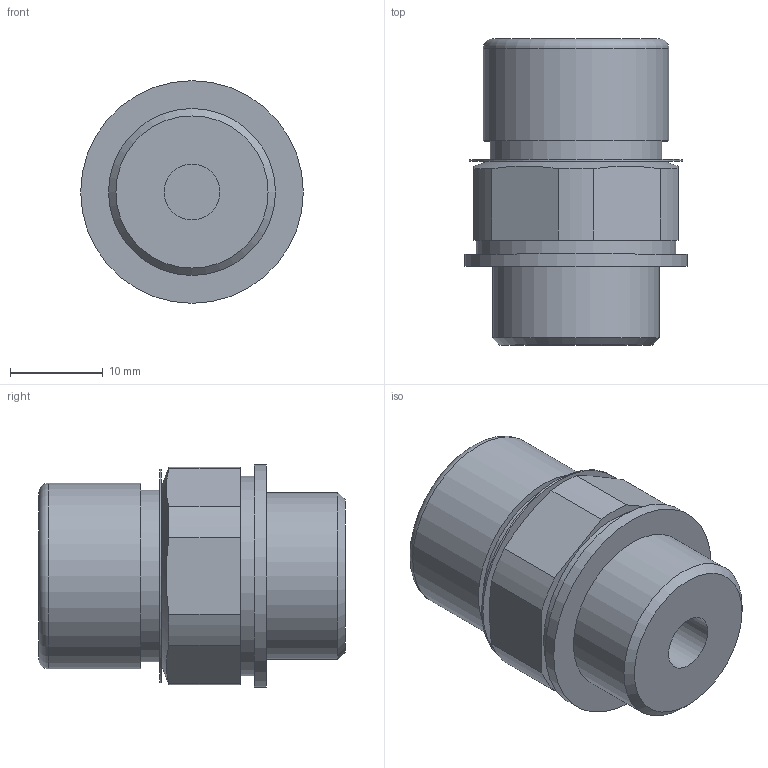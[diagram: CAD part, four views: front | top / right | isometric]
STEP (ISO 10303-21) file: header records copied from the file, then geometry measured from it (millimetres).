
FILE_DESCRIPTION( ( 'STEP AP203' ), '1' );
FILE_NAME( 'C:/Temp/Ganter_Step_05_03_2020/data/3_5/gn881/Breather valve GN 881-M18x1,5-200-MS-M.stp', '2020-03-12T13:42:37', ( 'License CC BY-ND 4.0' ), ( 'CADENAS' ), ' ', 'PARTsolutions', ' ' );
FILE_SCHEMA( ( 'CONFIG_CONTROL_DESIGN' ) );
Length unit declared in the file: millimetre
Products named in the file (1): _Breather valve GN 881-M18x1,5-200-MS-M
Bounding box: 24 x 33 x 24 mm (x, y, z)
Volume: 10341.3 mm3; surface area: 3695.9 mm2
Topology: 1 solids, 1 shells, 34 faces, 70 edges, 46 vertices
Faces by surface type: plane 16, cylinder 14, cone 3, torus 1
Full cylindrical faces by diameter (mm): 6 x1, 18 x1, 18.5 x1, 19 x1, 20 x1, 21.5 x1, 23 x1, 24 x1
Entity records: 890 total; most frequent: CARTESIAN_POINT 161, DIRECTION 152, ORIENTED_EDGE 112, AXIS2_PLACEMENT_3D 67, EDGE_CURVE 56, EDGE_LOOP 54, VERTEX_POINT 44, FACE_OUTER_BOUND 43
